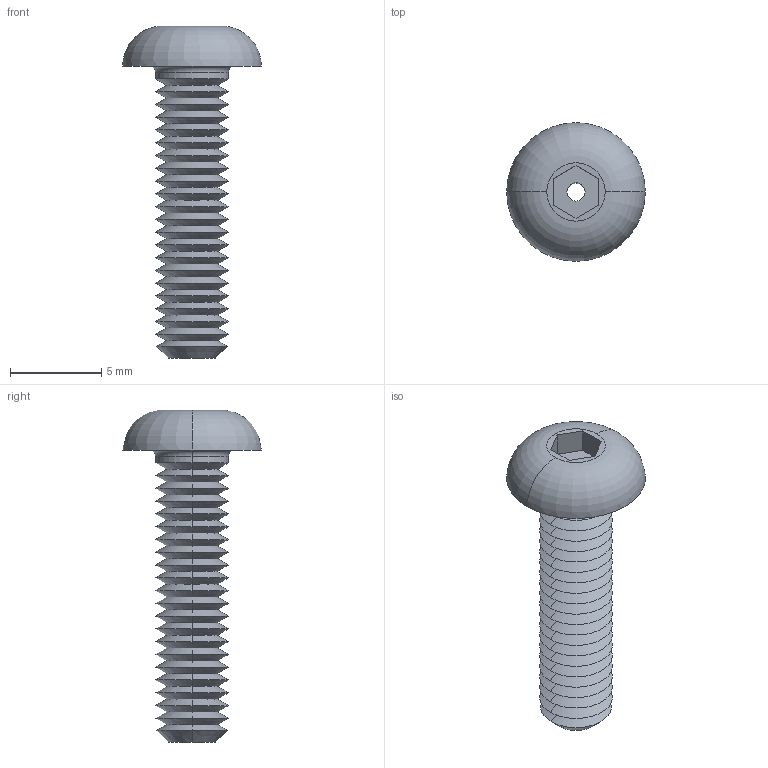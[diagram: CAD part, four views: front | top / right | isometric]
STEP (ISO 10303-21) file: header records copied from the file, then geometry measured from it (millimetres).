
FILE_DESCRIPTION (( 'STEP AP203' ), '1' );
FILE_NAME ('P0094.040-016-A2.step', '2019-07-12T16:52:55', ( '' ), ( '' ), 'SwSTEP 2.0', 'SolidWorks 2017', '' );
FILE_SCHEMA (( 'CONFIG_CONTROL_DESIGN' ));
Length unit declared in the file: millimetre
Products named in the file (1): P0094.040-016-A2
Bounding box: 7.6 x 7.6 x 18.2 mm (x, y, z)
Volume: 206.3 mm3; surface area: 502.8 mm2
Topology: 1 solids, 1 shells, 104 faces, 212 edges, 112 vertices
Faces by surface type: cone 86, plane 10, cylinder 4, torus 4
Entity records: 2737 total; most frequent: DIRECTION 526, CARTESIAN_POINT 429, ORIENTED_EDGE 424, EDGE_CURVE 212, AXIS2_PLACEMENT_3D 209, VERTEX_POINT 112, VECTOR 108, EDGE_LOOP 108
